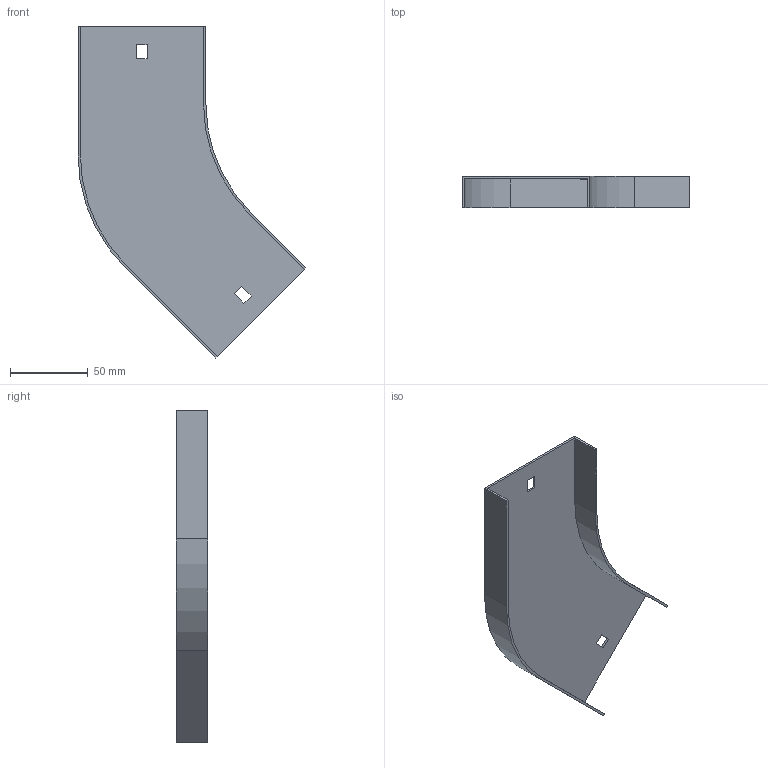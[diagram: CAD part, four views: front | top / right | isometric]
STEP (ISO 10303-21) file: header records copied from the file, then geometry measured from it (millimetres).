
FILE_DESCRIPTION (( 'STEP AP214' ), '1' );
FILE_NAME ('11N1R075.step', '2025-02-21T09:20:44', ( '' ), ( '' ), 'SwSTEP 2.0', 'SolidWorks 2023', '' );
FILE_SCHEMA (( 'AUTOMOTIVE_DESIGN' ));
Length unit declared in the file: millimetre
Products named in the file (1): 11N1R075
Bounding box: 146.21 x 20 x 212.99 mm (x, y, z)
Volume: 38044.8 mm3; surface area: 51810.2 mm2
Topology: 1 solids, 1 shells, 26 faces, 72 edges, 48 vertices
Faces by surface type: plane 22, cylinder 4
Entity records: 855 total; most frequent: CARTESIAN_POINT 147, ORIENTED_EDGE 144, DIRECTION 134, EDGE_CURVE 72, LINE 64, VECTOR 64, VERTEX_POINT 48, AXIS2_PLACEMENT_3D 35
